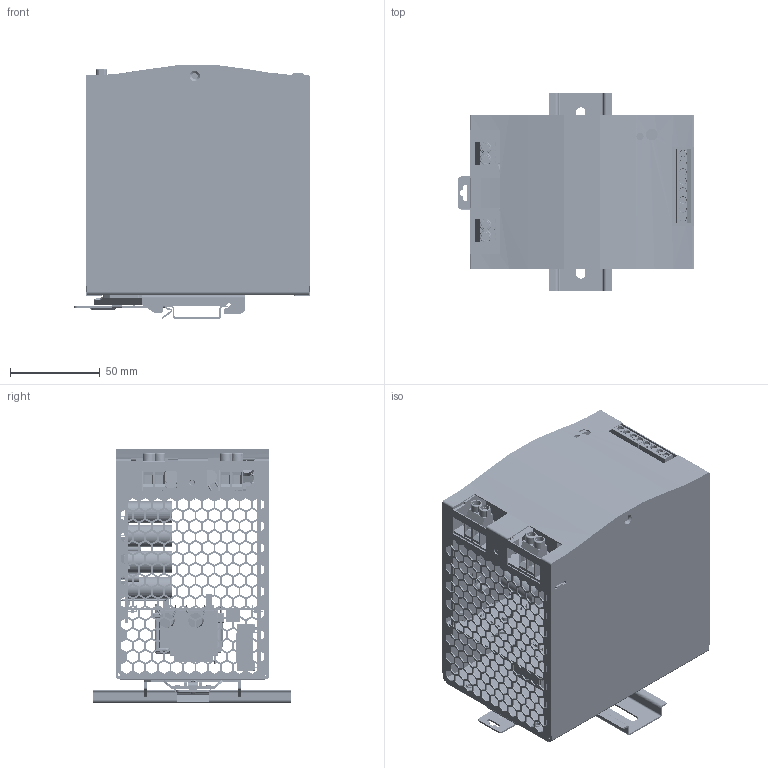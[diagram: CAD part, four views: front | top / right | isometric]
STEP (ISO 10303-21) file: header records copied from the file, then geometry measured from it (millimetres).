
FILE_DESCRIPTION(('Creo Elements/Direct Modeling STEP Export'),'2;1');
FILE_NAME('DDRH-240.stp','2024-05-17T11:37:41',(''),(''),'PTC Creo Elements/Direct Modeling STEP processor for AP214 (Solid Model)','PTC Creo Elements/Direct Modeling 19.0E 27-Jun-2016 (C) Parametric Technology GmbH','');
FILE_SCHEMA(('AUTOMOTIVE_DESIGN { 1 0 10303 214 1 1 1 1 }'));
Length unit declared in the file: millimetre
Products named in the file (586): p1.1; p3.2.1; 15.1; 挂座; DRP14-R4; BOARD.PRT; 1315968048.ASM; ZD6.ASM; PCB.ASM; DDRH-240D.step; ESK635V-644084-1; ESK635V-644804; DG125-5_0-02P-14-00A_H_--DDRH-.stp; DG125-5_0-02P-14-00A_H_--DDRH-.stp.1; DG129-5_08-04P-1Y-00AH_P-294020.PRT; DG129-5_08-04P-1Y-00AH_P-301960.ASM; DG129-5_08.stp.1; DG129-5_08.stp; P3_1_1_PRT_PRT-13260.PRT; P3_1_1_PRT_PRT-13590.ASM; F1.stp; F1.stp.1; _X2_96F64EF6_X0_1.PRT; BOBBIN_2_1_PRT.PRT; BOBBIN_1_7_PRT.PRT; BOBBIN_ASM_1_ASM.ASM; W_1_PRT.PRT; PQ-3220_1_1_PRT.PRT; CORE_ASM_1_ASM.ASM; WIRE_1_1_1-46250_1_PRT.PRT; 1-58480_1_PRT.PRT; _X2_88C5914D_X0_1_ASM_1_ASM.ASM; _X2_88C5914D_X0_1_1_ASM_1_ASM.ASM; WIRE_1_1_1-71450_1_PRT.PRT; 1-83680_1_PRT.PRT; _X2_88C5914D_X0_1_2_ASM_1_ASM.ASM; FL1_ASM_1_ASM.ASM; 2_1_1_1_PRT.PRT.5; WIRE_1_1_PRT.PRT; FL2_ASM_1_ASM.ASM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
Assembly tree (914 placements, depth 10):
  DRP14-R4
    挂座
    15.1
    p3.2.1
    p1.1
  DDRH-240.step
    PCB装配
      DDRH-240F-R1.step
        PCB.ASM
          CN10.ASM
            1FF1-P8800LF_879851481.ASM  x4
              EXTRUDED-20425.PRT
            1FF1-P8800LF.ASM
              EXTRUDED-19741.PRT
          RF1.ASM
            689662912.ASM
              689662912_4.PRT
              689662912_3.PRT
              689662912_2.PRT
              689662912_1.PRT
          RF2.ASM
            689662912.ASM
              689662912_4.PRT
              689662912_3.PRT
              689662912_2.PRT
              689662912_1.PRT
          RF3.ASM
            689662912.ASM
              689662912_4.PRT
              689662912_3.PRT
              689662912_2.PRT
              689662912_1.PRT
          RF4.ASM
            689662912.ASM
              689662912_4.PRT
              689662912_3.PRT
              689662912_2.PRT
              689662912_1.PRT
          RF5.ASM
            689662912.ASM
              689662912_4.PRT
              689662912_3.PRT
              689662912_2.PRT
              689662912_1.PRT
          RF6.ASM
            689662912.ASM
              689662912_4.PRT
              689662912_3.PRT
              689662912_2.PRT
              689662912_1.PRT
          J1.ASM
            1196995648.ASM  x2
              CYLINDER-8356.PRT
            1196995952.ASM
              CYLINDER-8607.PRT
            1196995800.ASM  x2
              SPHERE-8548.PRT
          C2.ASM
            1181044720.ASM
              EXTRUDED-7899.PRT
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Bounding box: 131.7 x 110.38 x 141.67 mm (x, y, z)
Volume: 285595.5 mm3; surface area: 396496.5 mm2
Topology: 691 solids, 706 shells, 21167 faces, 55759 edges, 36099 vertices
Faces by surface type: plane 12924, extrusion 3492, cylinder 3282, sphere 549, torus 476, bspline 356, cone 88
Entity records: 559663 total; most frequent: CARTESIAN_POINT 236098, ORIENTED_EDGE 58312, DIRECTION 52783, EDGE_CURVE 29154, VECTOR 22091, LINE 21644, VERTEX_POINT 18938, AXIS2_PLACEMENT_3D 15346
